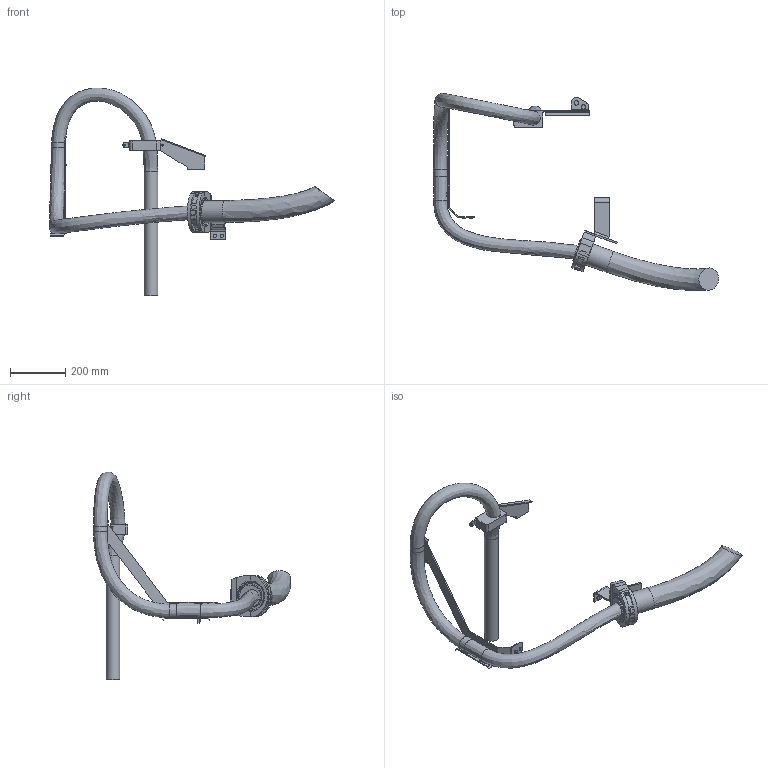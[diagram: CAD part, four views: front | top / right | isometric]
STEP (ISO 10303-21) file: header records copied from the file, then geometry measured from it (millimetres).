
FILE_DESCRIPTION (( 'STEP AP203' ), '1' );
FILE_NAME ('IRB6730S-ALL-OC_00_LINK01_CABLE.step', '2025-12-19T13:30:13', ( '' ), ( '' ), 'SwSTEP 2.0', 'SolidWorks 2024', '' );
FILE_SCHEMA (( 'CONFIG_CONTROL_DESIGN' ));
Length unit declared in the file: millimetre
Products named in the file (1): IRB6730S-ALL-OC_00_LINK01_CABLE
Bounding box: 1033.02 x 713.94 x 752.9 mm (x, y, z)
Volume: 7926661 mm3; surface area: 692172.2 mm2
Topology: 1 solids, 2 shells, 385 faces, 1017 edges, 647 vertices
Faces by surface type: plane 248, cylinder 115, bspline 13, sphere 5, cone 4
Full cylindrical faces by diameter (mm): 6 x2, 7.5 x2, 10.22 x2, 12 x4, 16 x2, 50 x1, 80 x2, 90 x1
Entity records: 17429 total; most frequent: CARTESIAN_POINT 8101, ORIENTED_EDGE 1954, DIRECTION 1842, EDGE_CURVE 977, VERTEX_POINT 629, VECTOR 614, LINE 614, AXIS2_PLACEMENT_3D 614
